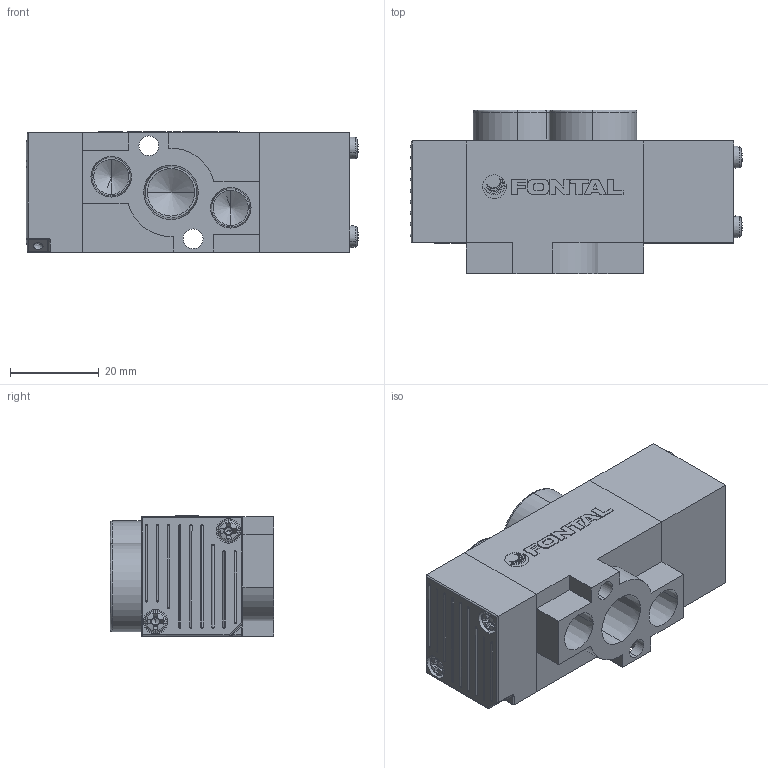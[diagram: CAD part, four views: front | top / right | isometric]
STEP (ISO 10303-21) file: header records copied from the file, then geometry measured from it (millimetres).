
FILE_DESCRIPTION (( 'STEP AP203' ), '1' );
FILE_NAME ('YCS2406-02.STEP', '2016-08-08T01:31:04', ( '' ), ( '' ), 'SwSTEP 2.0', 'SolidWorks 2014', '' );
FILE_SCHEMA (( 'CONFIG_CONTROL_DESIGN' ));
Length unit declared in the file: millimetre
Products named in the file (6): YCS-2406-02; PC06-MARK_23; RC06-2_2; RC06-1_8; YCS2406-02; PC6-M3_59
Assembly tree (8 placements, depth 2):
  YCS2406-02
    PC06-MARK_23
    RC06-1_8
    RC06-2_2
    PC6-M3_59  x4
    YCS-2406-02
Bounding box: 74.99 x 37 x 27.15 mm (x, y, z)
Volume: 42335 mm3; surface area: 17945.3 mm2
Topology: 14 solids, 14 shells, 413 faces, 1047 edges, 651 vertices
Faces by surface type: plane 198, cylinder 92, bspline 63, cone 60
Entity records: 10758 total; most frequent: CARTESIAN_POINT 2895, ORIENTED_EDGE 1518, DIRECTION 1415, EDGE_CURVE 759, VERTEX_POINT 498, AXIS2_PLACEMENT_3D 487, VECTOR 441, LINE 441
